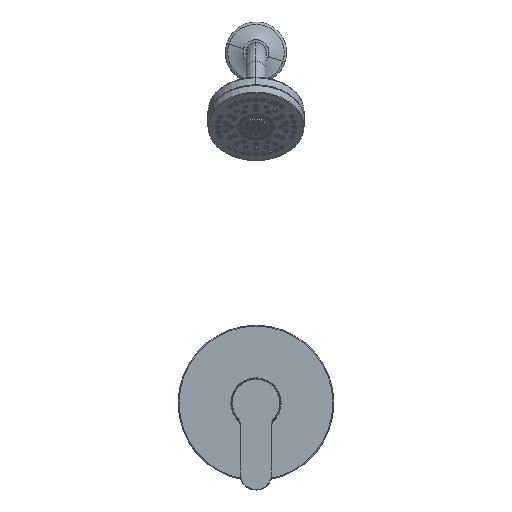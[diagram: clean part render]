
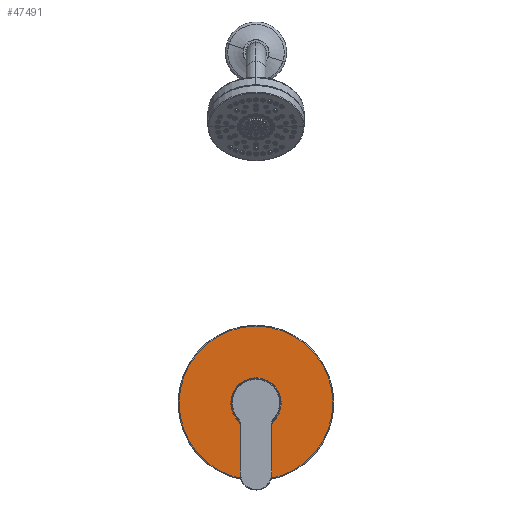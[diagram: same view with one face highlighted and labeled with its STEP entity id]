
A CAD part, top view. The second image highlights one B-rep face of the part: STEP entity #47491.
In plain terms, the highlighted planar face has unit normal (0, 0, 1).
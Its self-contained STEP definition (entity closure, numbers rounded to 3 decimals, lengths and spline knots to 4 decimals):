
#4247 = ORIENTED_EDGE ( 'NONE', *, *, #4582, .F. ) ;
#4582 = EDGE_CURVE ( 'NONE', #122573, #147163, #53027, .T. ) ;
#5131 = DIRECTION ( 'NONE',  ( 0., 0., 1. ) ) ;
#8477 = EDGE_LOOP ( 'NONE', ( #87519, #33488 ) ) ;
#14323 = ORIENTED_EDGE ( 'NONE', *, *, #44527, .F. ) ;
#17314 = CARTESIAN_POINT ( 'NONE',  ( 2.9942, 3.7325, 5.2986 ) ) ;
#20308 = CIRCLE ( 'NONE', #106604, 1.0255 ) ;
#21205 = EDGE_CURVE ( 'NONE', #52336, #135435, #117842, .T. ) ;
#23241 = CARTESIAN_POINT ( 'NONE',  ( 0.9432, 3.7325, 5.2986 ) ) ;
#27642 = FACE_BOUND ( 'NONE', #148319, .T. ) ;
#28891 = EDGE_CURVE ( 'NONE', #135435, #52336, #34481, .T. ) ;
#29098 = AXIS2_PLACEMENT_3D ( 'NONE', #45320, #117898, #58421 ) ;
#31628 = DIRECTION ( 'NONE',  ( 1., 0., 0. ) ) ;
#33488 = ORIENTED_EDGE ( 'NONE', *, *, #28891, .T. ) ;
#34481 = CIRCLE ( 'NONE', #54217, 3.1306 ) ;
#44527 = EDGE_CURVE ( 'NONE', #147163, #122573, #20308, .T. ) ;
#45320 = CARTESIAN_POINT ( 'NONE',  ( 1.9687, 3.7325, 5.2986 ) ) ;
#47491 = ADVANCED_FACE ( 'NONE', ( #61605, #27642 ), #146560, .T. ) ;
#49748 = CARTESIAN_POINT ( 'NONE',  ( -1.162, 3.7325, 5.2986 ) ) ;
#52336 = VERTEX_POINT ( 'NONE', #103161 ) ;
#53027 = CIRCLE ( 'NONE', #144351, 1.0255 ) ;
#54217 = AXIS2_PLACEMENT_3D ( 'NONE', #55554, #102646, #31628 ) ;
#55554 = CARTESIAN_POINT ( 'NONE',  ( 1.9687, 3.7325, 5.2986 ) ) ;
#58421 = DIRECTION ( 'NONE',  ( 1., 0., 0. ) ) ;
#61605 = FACE_OUTER_BOUND ( 'NONE', #8477, .T. ) ;
#62374 = CARTESIAN_POINT ( 'NONE',  ( 1.9687, 3.7325, 5.2986 ) ) ;
#66123 = DIRECTION ( 'NONE',  ( 1., 0., 0. ) ) ;
#74750 = AXIS2_PLACEMENT_3D ( 'NONE', #62374, #111770, #97131 ) ;
#80204 = DIRECTION ( 'NONE',  ( 1., 0., 0. ) ) ;
#87519 = ORIENTED_EDGE ( 'NONE', *, *, #21205, .T. ) ;
#97131 = DIRECTION ( 'NONE',  ( 1., 0., 0. ) ) ;
#102646 = DIRECTION ( 'NONE',  ( 0., 0., 1. ) ) ;
#103161 = CARTESIAN_POINT ( 'NONE',  ( 5.0993, 3.7325, 5.2986 ) ) ;
#106604 = AXIS2_PLACEMENT_3D ( 'NONE', #148016, #5131, #66123 ) ;
#111770 = DIRECTION ( 'NONE',  ( 0., 0., 1. ) ) ;
#114218 = DIRECTION ( 'NONE',  ( 0., 0., 1. ) ) ;
#117842 = CIRCLE ( 'NONE', #29098, 3.1306 ) ;
#117898 = DIRECTION ( 'NONE',  ( 0., 0., 1. ) ) ;
#122573 = VERTEX_POINT ( 'NONE', #23241 ) ;
#135435 = VERTEX_POINT ( 'NONE', #49748 ) ;
#141224 = CARTESIAN_POINT ( 'NONE',  ( 1.9687, 3.7325, 5.2986 ) ) ;
#144351 = AXIS2_PLACEMENT_3D ( 'NONE', #141224, #114218, #80204 ) ;
#146560 = PLANE ( 'NONE',  #74750 ) ;
#147163 = VERTEX_POINT ( 'NONE', #17314 ) ;
#148016 = CARTESIAN_POINT ( 'NONE',  ( 1.9687, 3.7325, 5.2986 ) ) ;
#148319 = EDGE_LOOP ( 'NONE', ( #14323, #4247 ) ) ;
